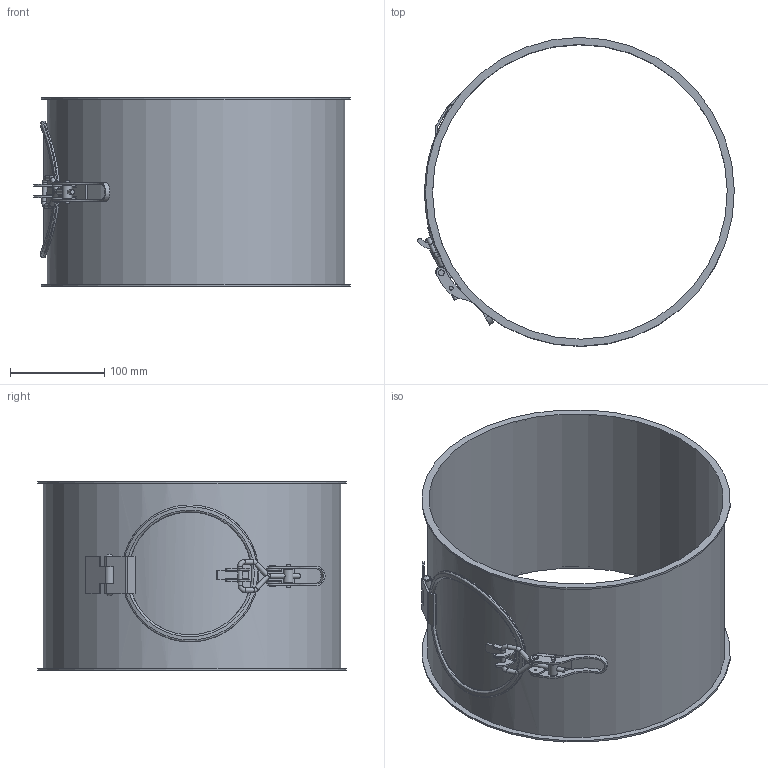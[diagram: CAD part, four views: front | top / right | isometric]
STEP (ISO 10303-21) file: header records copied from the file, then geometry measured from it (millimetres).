
FILE_DESCRIPTION((''),'2;1');
FILE_NAME('U:\Wolfgang\Marcel-3D\fertig\Kapitel 4\3111043.stp','2011-04-21T08:25:08',('TK1'),(''),'Autodesk Inventor 2010','Autodesk Inventor 2010','');
FILE_SCHEMA(('AUTOMOTIVE_DESIGN { 1 0 10303 214 1 1 1 1 }'));
Length unit declared in the file: millimetre
Products named in the file (15): 3111043 (Detailgenauigkeit1); 3111043-1; GelenkDeckel31b; GelenkDeckel1c; Deckel31; GelenkDeckel30a; VerschlussDeckel31; dichtung31; Verschluss31; Verschluss31a; Verschluss1b; Verschluss1c; Verschluss1d; Verschluss1e
Assembly tree (15 placements, depth 3):
  3111043 (Detailgenauigkeit1)
    3111043-1
    GelenkDeckel31b
    GelenkDeckel1c
    Deckel31
      Deckel31
      GelenkDeckel30a
      VerschlussDeckel31
      dichtung31
    Verschluss31
      Verschluss31a
      Verschluss1b
      Verschluss1c
      Verschluss1d  x2
      Verschluss1e
Bounding box: 335.24 x 326.99 x 200 mm (x, y, z)
Volume: 350989 mm3; surface area: 458539.7 mm2
Topology: 13 solids, 13 shells, 177 faces, 416 edges, 269 vertices
Faces by surface type: cylinder 81, plane 80, torus 9, bspline 5, sphere 2
Full cylindrical faces by diameter (mm): 2 x4, 4 x4, 5 x6, 6 x6, 6.2 x2, 10 x1, 115 x1, 130 x1, 135 x1, 145 x1, 312 x1, 315 x1, 327 x2
Entity records: 6687 total; most frequent: CARTESIAN_POINT 2430, DIRECTION 862, ORIENTED_EDGE 710, EDGE_CURVE 355, AXIS2_PLACEMENT_3D 341, VERTEX_POINT 252, EDGE_LOOP 241, VECTOR 180
